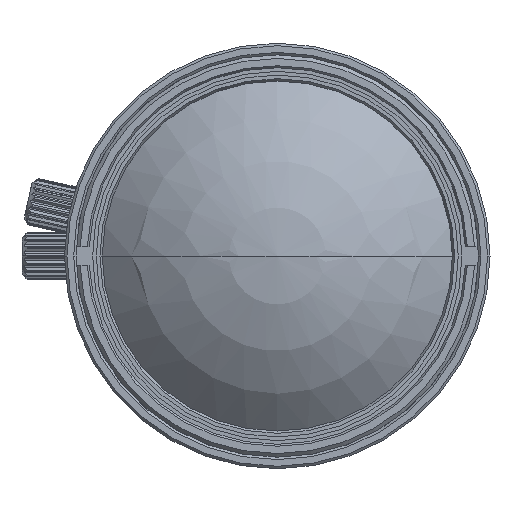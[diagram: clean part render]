
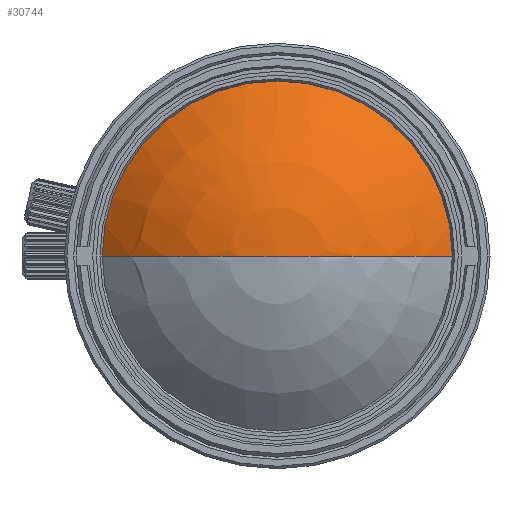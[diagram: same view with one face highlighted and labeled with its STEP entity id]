
A CAD part, left-side view. The second image highlights one B-rep face of the part: STEP entity #30744.
In plain terms, the highlighted spherical face has radius 20.057 mm.
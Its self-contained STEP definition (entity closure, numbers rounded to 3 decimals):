
#8152=CARTESIAN_POINT('',(-52.048,0.,0.));
#8153=DIRECTION('',(1.,0.,0.));
#8154=DIRECTION('',(0.,1.,0.));
#8155=AXIS2_PLACEMENT_3D('',#8152,#8153,#8154);
#8157=CARTESIAN_POINT('',(-38.086,0.,0.));
#8158=DIRECTION('',(0.,0.,-1.));
#8159=DIRECTION('',(-0.696,-0.718,0.));
#8160=AXIS2_PLACEMENT_3D('',#8157,#8158,#8159);
#8167=CARTESIAN_POINT('',(-38.086,0.,0.));
#8168=DIRECTION('',(0.,0.,1.));
#8169=DIRECTION('',(-0.696,0.718,0.));
#8170=AXIS2_PLACEMENT_3D('',#8167,#8168,#8169);
#22200=CARTESIAN_POINT('',(-52.048,14.4,0.));
#22201=CARTESIAN_POINT('',(-52.048,-14.4,0.));
#22202=VERTEX_POINT('',#22200);
#22203=VERTEX_POINT('',#22201);
#22204=CARTESIAN_POINT('',(-58.143,0.,0.));
#22205=VERTEX_POINT('',#22204);
#30732=CARTESIAN_POINT('',(-38.086,0.,0.));
#30733=DIRECTION('',(1.,0.,0.));
#30734=DIRECTION('',(0.,-1.,0.));
#30735=AXIS2_PLACEMENT_3D('',#30732,#30733,#30734);
#30736=SPHERICAL_SURFACE('',#30735,20.057);
#30737=ORIENTED_EDGE('',*,*,#30722,.T.);
#30739=ORIENTED_EDGE('',*,*,#30738,.T.);
#30741=ORIENTED_EDGE('',*,*,#30740,.F.);
#30742=EDGE_LOOP('',(#30737,#30739,#30741));
#30743=FACE_OUTER_BOUND('',#30742,.F.);
#30744=ADVANCED_FACE('',(#30743),#30736,.T.);
#8156=CIRCLE('',#8155,14.4);
#8161=CIRCLE('',#8160,20.057);
#8171=CIRCLE('',#8170,20.057);
#30722=EDGE_CURVE('',#22202,#22203,#8156,.T.);
#30738=EDGE_CURVE('',#22203,#22205,#8161,.T.);
#30740=EDGE_CURVE('',#22202,#22205,#8171,.T.);
